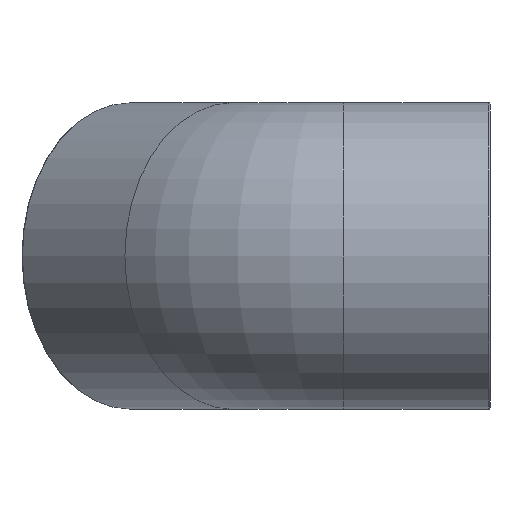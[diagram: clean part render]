
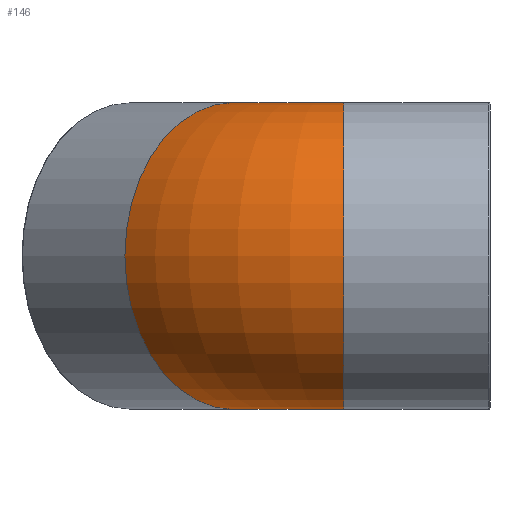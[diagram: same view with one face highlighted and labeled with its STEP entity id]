
A CAD part, left-side view. The second image highlights one B-rep face of the part: STEP entity #146.
In plain terms, the highlighted toroidal (fillet/blend) face has major radius 54 mm and minor radius 53 mm.
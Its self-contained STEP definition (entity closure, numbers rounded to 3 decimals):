
#36=FACE_BOUND('',#72,.T.);
#48=FACE_OUTER_BOUND('',#71,.T.);
#71=EDGE_LOOP('',(#129));
#72=EDGE_LOOP('',(#130));
#75=CIRCLE('',#153,53.);
#79=CIRCLE('',#160,53.);
#85=VERTEX_POINT('',#224);
#89=VERTEX_POINT('',#235);
#97=EDGE_CURVE('',#85,#85,#75,.T.);
#101=EDGE_CURVE('',#89,#89,#79,.T.);
#129=ORIENTED_EDGE('',*,*,#101,.F.);
#130=ORIENTED_EDGE('',*,*,#97,.T.);
#134=TOROIDAL_SURFACE('',#170,54.,53.);
#146=ADVANCED_FACE('',(#48,#36),#134,.T.);
#153=AXIS2_PLACEMENT_3D('',#225,#181,#182);
#160=AXIS2_PLACEMENT_3D('',#236,#195,#196);
#170=AXIS2_PLACEMENT_3D('',#383,#215,#216);
#181=DIRECTION('center_axis',(0.,1.,0.));
#182=DIRECTION('ref_axis',(1.,0.,0.));
#195=DIRECTION('center_axis',(0.707,0.707,0.));
#196=DIRECTION('ref_axis',(0.707,-0.707,0.));
#215=DIRECTION('center_axis',(0.,0.,-1.));
#216=DIRECTION('ref_axis',(-1.,0.,0.));
#224=CARTESIAN_POINT('',(-53.,50.632,0.));
#225=CARTESIAN_POINT('Origin',(0.,50.632,0.));
#235=CARTESIAN_POINT('',(-21.66,126.293,0.));
#236=CARTESIAN_POINT('Origin',(15.816,88.816,0.));
#383=CARTESIAN_POINT('Origin',(54.,50.632,0.));
